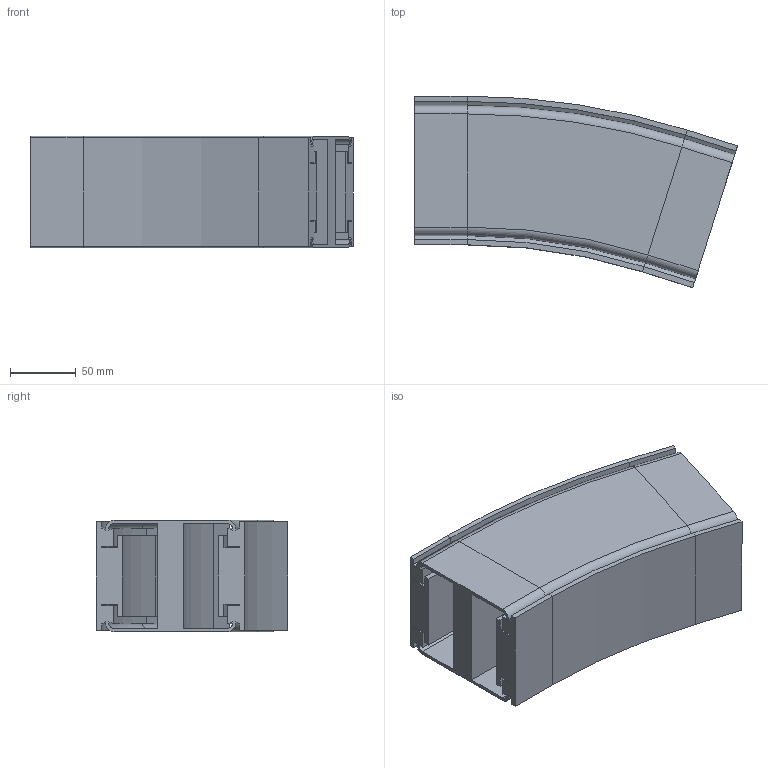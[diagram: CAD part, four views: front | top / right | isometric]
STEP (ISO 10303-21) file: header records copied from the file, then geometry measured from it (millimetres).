
FILE_DESCRIPTION (( 'STEP AP214' ), '1' );
FILE_NAME ('VC.85 Verticale bochtsectie.R500 17,5.STEP', '2017-02-08T08:13:11', ( '' ), ( '' ), 'SwSTEP 2.0', 'SolidWorks 2016', '' );
FILE_SCHEMA (( 'AUTOMOTIVE_DESIGN' ));
Length unit declared in the file: millimetre
Products named in the file (1): VC.85 Verticale bochtsectie.R500 17,5
Bounding box: 245.49 x 145.55 x 85 mm (x, y, z)
Volume: 1109388.9 mm3; surface area: 262894.1 mm2
Topology: 1 solids, 1 shells, 206 faces, 476 edges, 272 vertices
Faces by surface type: plane 144, cylinder 46, cone 8, torus 8
Entity records: 5674 total; most frequent: DIRECTION 990, CARTESIAN_POINT 955, ORIENTED_EDGE 952, EDGE_CURVE 476, VECTOR 376, LINE 376, AXIS2_PLACEMENT_3D 307, VERTEX_POINT 272
